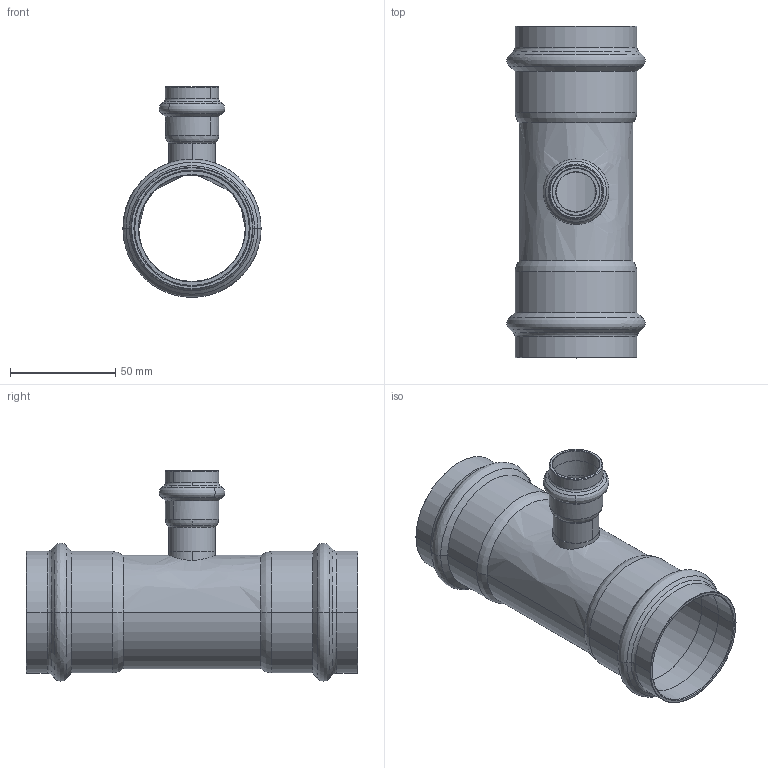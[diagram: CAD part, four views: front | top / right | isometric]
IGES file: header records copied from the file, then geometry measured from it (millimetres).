
Start section: Elysium IGES Interface
Global section: file name: C:\3d modellen sudo\C-Pr VP\SP8130RV\8130RVW542254.igs; native system: CoCreate Modeling 17.00A  17-Jun-2010; preprocessor: CoCreate IGES_3D V2.2; author: Unknown; organization: Unknown; date: 20130131.144541; units: millimetre
Bounding box: 65.68 x 157.73 x 100.07 mm (x, y, z)
Volume: 62103 mm3; surface area: 63217.7 mm2
Topology: 1 solids, 1 shells, 128 faces, 286 edges, 168 vertices
Faces by surface type: bspline 128
